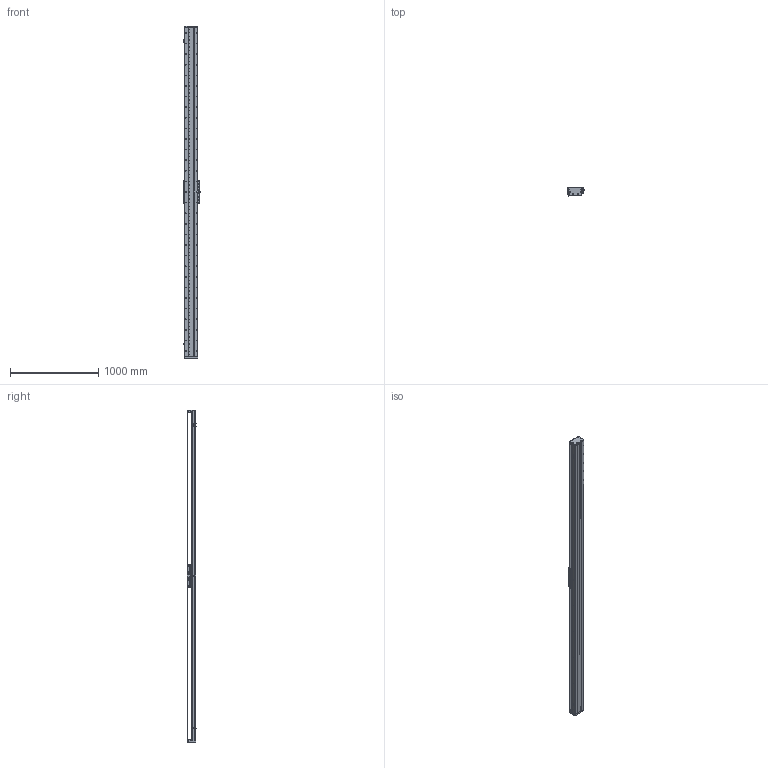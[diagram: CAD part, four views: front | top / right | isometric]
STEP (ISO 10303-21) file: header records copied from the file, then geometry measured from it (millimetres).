
FILE_DESCRIPTION (( 'STEP AP203' ), '1' );
FILE_NAME ('DA-C145-C3-T3420-C010-0.2 眻盄萇儂.STEP', '2025-08-14T01:38:56', ( '' ), ( '' ), 'SwSTEP 2.0', 'SolidWorks 2019', '' );
FILE_SCHEMA (( 'CONFIG_CONTROL_DESIGN' ));
Length unit declared in the file: millimetre
Products named in the file (32): 复件 纯铜油杯 6x6mm^CU145-W 滚珠滑台; DA-C145-C3-T3420-C010-0.2 眻盄萇儂; 葩璃 DA145-C3-DP-A-00 菜えA^CU145-W 幗紩賑怢; 复件 DA145-DG 钢带端盖^复件 CU145 钢带组件_DA-C145-C3-T-C010-0.2; 葩璃 DA95-GT-T-00^IU-CU145-L 菁釱絳寢; 葩璃 DMA-010-0.2 黍杅芛^DA-C145-C3-T-C010-0.2; 复件 DA145-GYP-00 光电感应片^DA-C145-C3-T-C010-0.2; IU-CU145-L 菁釱絳寢; 葩璃 DA95-HXJ-00 遣喳砎蝶^DA-C145-C3-T-C010-0.2; 66245-CU145-HT-W-00 賑雄怢啣(3D芞祧)(00); CU145-W 幗紩賑怢; 葩璃 鞠褒情蹟譫 M3^DA-C145-C3-T-C010-0.2; 复件 DA146 钢带拉块^复件 CU145 钢带组件_DA-C145-C3-T-C010-0.2; 葩璃 DA145-C3-DP-B-00 菜えB^CU145-W 幗紩賑怢; 复件 DA146 钢带垫块^复件 CU145 钢带组件_DA-C145-C3-T-C010-0.2; IU-CU145-L-00 菁釱(L3720); TAY01-M8; 葩璃 CU145 詩湍郪璃^DA-C145-C3-T-C010-0.2; 复件 DA145-C3-DK-00 挡块^CU145-W 滚珠滑台; 复件 DA95-HK-GT-00 滑块钢轨^CU145-W-00 一体化滑动台板; 复件 半圆头内六角螺钉 M3×6^CU145-W 滚珠滑台; 复件 DA95-MFP-01 密封片^CU145-W 滚珠滑台; 复件 DA145 钢带^复件 CU145 钢带组件_DA-C145-C3-T-C010-0.2; 复件 DA95-DB-00  挡板^CU145-W 滚珠滑台; 葩璃 CKMA01-W060-TRL^DA-C145-C3-T-C010-0.2; 复件 内六角平端紧定螺钉 GB.T77-2000 M5×10^CU145-W 滚珠滑台; 复件 DA145-C3-YB-A-00 压板A^CU145-W 滚珠滑台; 葩璃 PM-T45^DA-C145-C3-T-C010-0.2; 葩璃 XD-U-02L 棠掑喜^DA-C145-C3-T-C010-0.2; 葩璃 CKM03-W060-C1C2-TP-0.2^DA-C145-C3-T-C010-0.2; CU145-W-00 珨极趙賑雄怢啣; 复件 DA145-C3-YB-B-00 压板B^CU145-W 滚珠滑台
Assembly tree (103 placements, depth 4):
  DA-C145-C3-T3420-C010-0.2 眻盄萇儂
    IU-CU145-L 菁釱絳寢
      IU-CU145-L-00 菁釱(L3720)
      葩璃 DA95-GT-T-00^IU-CU145-L 菁釱絳寢  x4
    葩璃 CU145 詩湍郪璃^DA-C145-C3-T-C010-0.2
      复件 DA145-DG 钢带端盖^复件 CU145 钢带组件_DA-C145-C3-T-C010-0.2  x2
      复件 DA146 钢带拉块^复件 CU145 钢带组件_DA-C145-C3-T-C010-0.2  x2
      复件 DA146 钢带垫块^复件 CU145 钢带组件_DA-C145-C3-T-C010-0.2  x2
      复件 DA145 钢带^复件 CU145 钢带组件_DA-C145-C3-T-C010-0.2
    CU145-W 幗紩賑怢
      CU145-W-00 珨极趙賑雄怢啣
        66245-CU145-HT-W-00 賑雄怢啣(3D芞祧)(00)
        复件 DA95-HK-GT-00 滑块钢轨^CU145-W-00 一体化滑动台板  x8
      复件 DA95-MFP-01 密封片^CU145-W 滚珠滑台  x8
      复件 DA95-DB-00  挡板^CU145-W 滚珠滑台  x8
      复件 内六角平端紧定螺钉 GB.T77-2000 M5×10^CU145-W 滚珠滑台  x4
      复件 纯铜油杯 6x6mm^CU145-W 滚珠滑台  x4
      复件 半圆头内六角螺钉 M3×6^CU145-W 滚珠滑台  x16
      复件 DA145-C3-DK-00 挡块^CU145-W 滚珠滑台  x4
      葩璃 DA145-C3-DP-B-00 菜えB^CU145-W 幗紩賑怢  x2
      复件 DA145-C3-YB-B-00 压板B^CU145-W 滚珠滑台  x2
      葩璃 DA145-C3-DP-A-00 菜えA^CU145-W 幗紩賑怢  x3
      复件 DA145-C3-YB-A-00 压板A^CU145-W 滚珠滑台  x3
      TAY01-M8  x4
    葩璃 CKMA01-W060-TRL^DA-C145-C3-T-C010-0.2
    葩璃 PM-T45^DA-C145-C3-T-C010-0.2  x3
    葩璃 XD-U-02L 棠掑喜^DA-C145-C3-T-C010-0.2
    葩璃 DA95-HXJ-00 遣喳砎蝶^DA-C145-C3-T-C010-0.2  x4
    复件 DA145-GYP-00 光电感应片^DA-C145-C3-T-C010-0.2
    葩璃 DMA-010-0.2 黍杅芛^DA-C145-C3-T-C010-0.2
    葩璃 CKM03-W060-C1C2-TP-0.2^DA-C145-C3-T-C010-0.2
    葩璃 鞠褒情蹟譫 M3^DA-C145-C3-T-C010-0.2  x8
Bounding box: 203.5 x 108.45 x 3756 mm (x, y, z)
Volume: 16747302.9 mm3; surface area: 5718516.9 mm2
Topology: 99 solids, 131 shells, 5092 faces, 15122 edges, 9546 vertices
Faces by surface type: cylinder 2710, plane 1614, cone 690, torus 74, sphere 4
Entity records: 154556 total; most frequent: CARTESIAN_POINT 49236, ORIENTED_EDGE 21764, DIRECTION 20049, EDGE_CURVE 10882, AXIS2_PLACEMENT_3D 7558, VERTEX_POINT 7085, LINE 4933, VECTOR 4933
